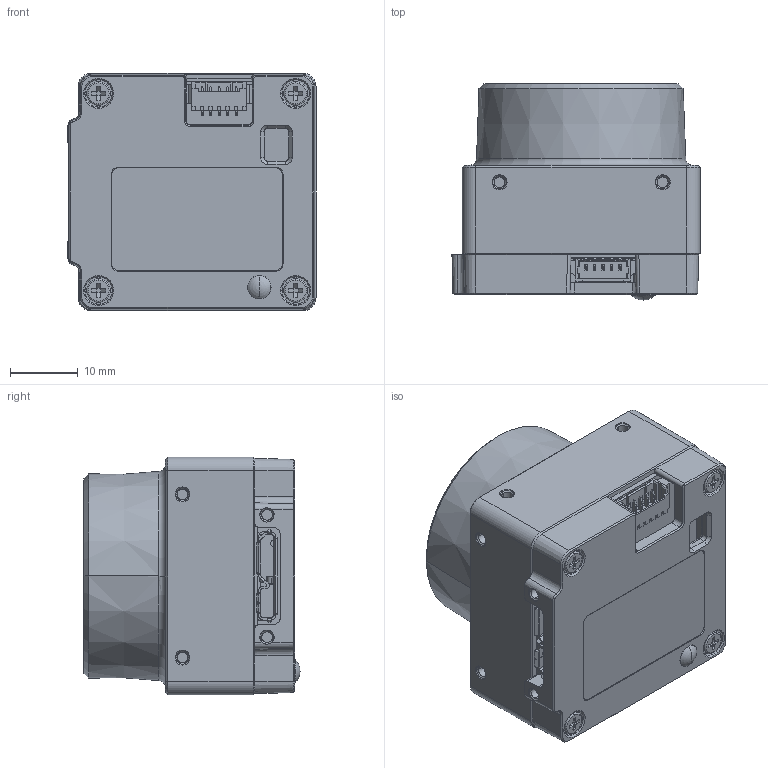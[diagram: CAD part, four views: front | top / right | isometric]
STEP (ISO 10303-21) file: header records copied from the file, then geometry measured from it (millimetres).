
FILE_DESCRIPTION((''),'2;1');
FILE_NAME('DH3-RD002468-6009_1','2024-02-02T14:16:36',('401332'),(''),'CREO PARAMETRIC BY PTC INC, 2020184','CREO PARAMETRIC BY PTC INC, 2020184','');
FILE_SCHEMA(('CONFIG_CONTROL_DESIGN','SHAPE_APPEARANCE_LAYERS_GROUPS'));
Products named in the file (1): DH3-RD002468-6009_1
Bounding box: 36.5 x 31.8 x 35 mm (x, y, z)
Volume: 11433.5 mm3; surface area: 16027 mm2
Topology: 4 solids, 40 shells, 1742 faces, 4846 edges, 3127 vertices
Faces by surface type: plane 989, cylinder 483, cone 191, torus 45, bspline 30, sphere 4
Entity records: 85137 total; most frequent: CARTESIAN_POINT 18195, ORIENTED_EDGE 9544, DIRECTION 9038, PRESENTATION_STYLE_ASSIGNMENT 5897, STYLED_ITEM 4868, CURVE_STYLE 4834, EDGE_CURVE 4834, VECTOR 3136
